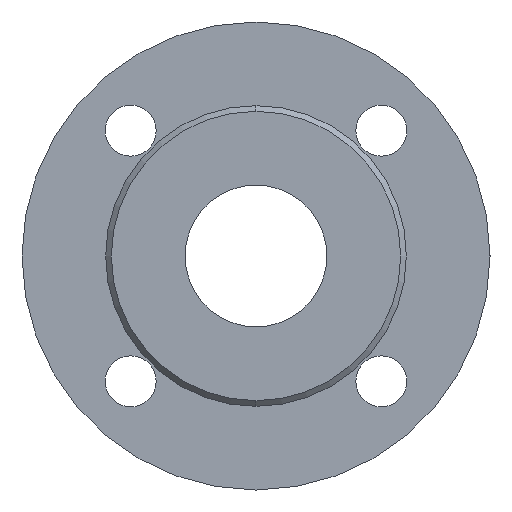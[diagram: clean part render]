
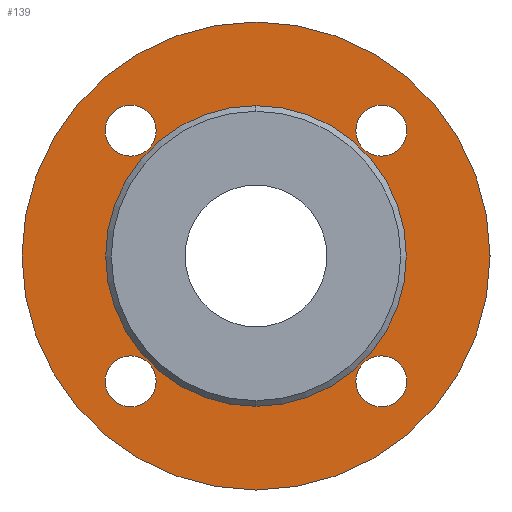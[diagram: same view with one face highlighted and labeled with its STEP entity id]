
A CAD part, left-side view. The second image highlights one B-rep face of the part: STEP entity #139.
In plain terms, the highlighted planar face has unit normal (-1, 0, 0).
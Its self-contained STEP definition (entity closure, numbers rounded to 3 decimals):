
#139=ADVANCED_FACE('',(#286,#287,#288,#289,#290,#291),#292,.F.);
#286=FACE_BOUND('',#486,.T.);
#287=FACE_BOUND('',#487,.T.);
#288=FACE_BOUND('',#488,.T.);
#289=FACE_BOUND('',#489,.T.);
#290=FACE_BOUND('',#490,.T.);
#291=FACE_OUTER_BOUND('',#491,.T.);
#292=PLANE('',#492);
#486=EDGE_LOOP('',(#723,#724));
#487=EDGE_LOOP('',(#725,#726));
#488=EDGE_LOOP('',(#727,#728));
#489=EDGE_LOOP('',(#729,#730));
#490=EDGE_LOOP('',(#731,#732));
#491=EDGE_LOOP('',(#733,#734));
#492=AXIS2_PLACEMENT_3D('',#735,#736,#737);
#723=ORIENTED_EDGE('',*,*,#1083,.T.);
#724=ORIENTED_EDGE('',*,*,#1084,.T.);
#725=ORIENTED_EDGE('',*,*,#1085,.T.);
#726=ORIENTED_EDGE('',*,*,#1022,.T.);
#727=ORIENTED_EDGE('',*,*,#1044,.T.);
#728=ORIENTED_EDGE('',*,*,#1086,.T.);
#729=ORIENTED_EDGE('',*,*,#1087,.T.);
#730=ORIENTED_EDGE('',*,*,#1061,.T.);
#731=ORIENTED_EDGE('',*,*,#1058,.T.);
#732=ORIENTED_EDGE('',*,*,#1088,.T.);
#733=ORIENTED_EDGE('',*,*,#1089,.F.);
#734=ORIENTED_EDGE('',*,*,#1077,.F.);
#735=CARTESIAN_POINT('',(2.0,0.0,0.));
#736=DIRECTION('',(1.0,0.0,0.));
#737=DIRECTION('',(0.,0.0,-1.0));
#1022=EDGE_CURVE('',#1187,#1185,#1188,.T.);
#1044=EDGE_CURVE('',#1221,#1225,#1227,.T.);
#1058=EDGE_CURVE('',#1245,#1249,#1251,.T.);
#1061=EDGE_CURVE('',#1256,#1254,#1257,.T.);
#1077=EDGE_CURVE('',#1282,#1277,#1284,.T.);
#1083=EDGE_CURVE('',#1292,#1293,#1294,.T.);
#1084=EDGE_CURVE('',#1293,#1292,#1295,.T.);
#1085=EDGE_CURVE('',#1185,#1187,#1296,.T.);
#1086=EDGE_CURVE('',#1225,#1221,#1297,.T.);
#1087=EDGE_CURVE('',#1254,#1256,#1298,.T.);
#1088=EDGE_CURVE('',#1249,#1245,#1299,.T.);
#1089=EDGE_CURVE('',#1277,#1282,#1300,.T.);
#1185=VERTEX_POINT('',#1416);
#1187=VERTEX_POINT('',#1419);
#1188=CIRCLE('',#1420,9.0);
#1221=VERTEX_POINT('',#1460);
#1225=VERTEX_POINT('',#1465);
#1227=CIRCLE('',#1468,9.0);
#1245=VERTEX_POINT('',#1490);
#1249=VERTEX_POINT('',#1495);
#1251=CIRCLE('',#1498,9.0);
#1254=VERTEX_POINT('',#1501);
#1256=VERTEX_POINT('',#1504);
#1257=CIRCLE('',#1505,9.0);
#1277=VERTEX_POINT('',#1528);
#1282=VERTEX_POINT('',#1534);
#1284=CIRCLE('',#1537,82.5);
#1292=VERTEX_POINT('',#1545);
#1293=VERTEX_POINT('',#1546);
#1294=CIRCLE('',#1547,25.0);
#1295=CIRCLE('',#1548,25.0);
#1296=CIRCLE('',#1549,9.0);
#1297=CIRCLE('',#1550,9.0);
#1298=CIRCLE('',#1551,9.0);
#1299=CIRCLE('',#1552,9.0);
#1300=CIRCLE('',#1553,82.5);
#1416=CARTESIAN_POINT('',(2.0,44.194,-53.194));
#1419=CARTESIAN_POINT('',(2.0,44.194,-35.194));
#1420=AXIS2_PLACEMENT_3D('',#1685,#1686,#1687);
#1460=CARTESIAN_POINT('',(2.0,44.194,35.194));
#1465=CARTESIAN_POINT('',(2.0,44.194,53.194));
#1468=AXIS2_PLACEMENT_3D('',#1721,#1722,#1723);
#1490=CARTESIAN_POINT('',(2.0,-44.194,-53.194));
#1495=CARTESIAN_POINT('',(2.0,-44.194,-35.194));
#1498=AXIS2_PLACEMENT_3D('',#1742,#1743,#1744);
#1501=CARTESIAN_POINT('',(2.0,-44.194,35.194));
#1504=CARTESIAN_POINT('',(2.0,-44.194,53.194));
#1505=AXIS2_PLACEMENT_3D('',#1746,#1747,#1748);
#1528=CARTESIAN_POINT('',(2.0,0.0,-82.5));
#1534=CARTESIAN_POINT('',(2.,0.,82.5));
#1537=AXIS2_PLACEMENT_3D('',#1775,#1776,#1777);
#1545=CARTESIAN_POINT('',(2.0,0.0,-25.0));
#1546=CARTESIAN_POINT('',(2.0,0.,25.0));
#1547=AXIS2_PLACEMENT_3D('',#1787,#1788,#1789);
#1548=AXIS2_PLACEMENT_3D('',#1790,#1791,#1792);
#1549=AXIS2_PLACEMENT_3D('',#1793,#1794,#1795);
#1550=AXIS2_PLACEMENT_3D('',#1796,#1797,#1798);
#1551=AXIS2_PLACEMENT_3D('',#1799,#1800,#1801);
#1552=AXIS2_PLACEMENT_3D('',#1802,#1803,#1804);
#1553=AXIS2_PLACEMENT_3D('',#1805,#1806,#1807);
#1685=CARTESIAN_POINT('',(2.0,44.194,-44.194));
#1686=DIRECTION('',(1.0,0.0,0.));
#1687=DIRECTION('',(0.,0.0,-1.0));
#1721=CARTESIAN_POINT('',(2.0,44.194,44.194));
#1722=DIRECTION('',(1.0,0.0,0.));
#1723=DIRECTION('',(0.,0.0,-1.0));
#1742=CARTESIAN_POINT('',(2.0,-44.194,-44.194));
#1743=DIRECTION('',(1.0,0.0,0.));
#1744=DIRECTION('',(0.,0.0,-1.0));
#1746=CARTESIAN_POINT('',(2.0,-44.194,44.194));
#1747=DIRECTION('',(1.0,0.0,0.));
#1748=DIRECTION('',(0.,0.0,-1.0));
#1775=CARTESIAN_POINT('',(2.0,0.0,0.));
#1776=DIRECTION('',(1.0,0.0,0.));
#1777=DIRECTION('',(0.,0.0,-1.0));
#1787=CARTESIAN_POINT('',(2.0,0.0,0.));
#1788=DIRECTION('',(1.0,0.0,0.));
#1789=DIRECTION('',(0.,0.0,-1.0));
#1790=CARTESIAN_POINT('',(2.0,0.0,0.));
#1791=DIRECTION('',(1.0,0.0,0.));
#1792=DIRECTION('',(0.,0.0,-1.0));
#1793=CARTESIAN_POINT('',(2.0,44.194,-44.194));
#1794=DIRECTION('',(1.0,0.0,0.));
#1795=DIRECTION('',(0.,0.0,-1.0));
#1796=CARTESIAN_POINT('',(2.0,44.194,44.194));
#1797=DIRECTION('',(1.0,0.0,0.));
#1798=DIRECTION('',(0.,0.0,-1.0));
#1799=CARTESIAN_POINT('',(2.0,-44.194,44.194));
#1800=DIRECTION('',(1.0,0.0,0.));
#1801=DIRECTION('',(0.,0.0,-1.0));
#1802=CARTESIAN_POINT('',(2.0,-44.194,-44.194));
#1803=DIRECTION('',(1.0,0.0,0.));
#1804=DIRECTION('',(0.,0.0,-1.0));
#1805=CARTESIAN_POINT('',(2.0,0.0,0.));
#1806=DIRECTION('',(1.0,0.0,0.));
#1807=DIRECTION('',(0.,0.0,-1.0));
